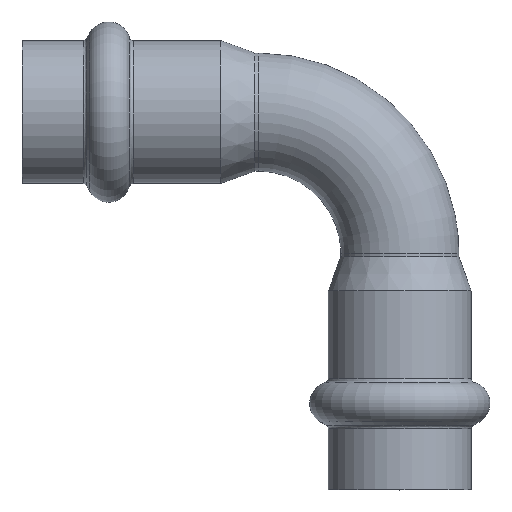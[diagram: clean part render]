
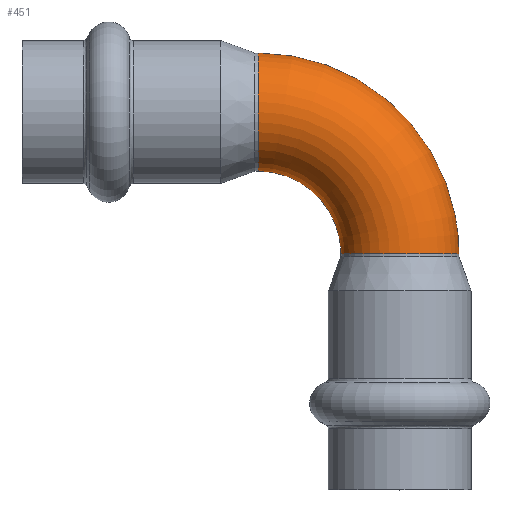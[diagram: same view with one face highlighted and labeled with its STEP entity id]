
A CAD part, top view. The second image highlights one B-rep face of the part: STEP entity #451.
In plain terms, the highlighted toroidal (fillet/blend) face has major radius 18 mm and minor radius 7.5 mm.
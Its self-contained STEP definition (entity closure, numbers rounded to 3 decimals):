
#424=CARTESIAN_POINT('',(-18.,-18.,0.));
#425=DIRECTION('',(0.,0.,-1.0));
#426=DIRECTION('',(-1.0,0.0,0.0));
#427=AXIS2_PLACEMENT_3D('',#424,#425,#426);
#428=TOROIDAL_SURFACE('',#427,18.0,7.5);
#429=CARTESIAN_POINT('',(0.,-18.,7.5));
#430=VERTEX_POINT('',#429);
#431=CARTESIAN_POINT('',(0.,-18.,0.0));
#432=DIRECTION('',(0.0,-1.0,0.0));
#433=DIRECTION('',(1.0,0.0,0.0));
#434=AXIS2_PLACEMENT_3D('',#431,#432,#433);
#435=CIRCLE('',#434,7.5);
#436=EDGE_CURVE('',#430,#430,#435,.T.);
#437=ORIENTED_EDGE('',*,*,#436,.F.);
#438=EDGE_LOOP('',(#437));
#439=FACE_OUTER_BOUND('',#438,.T.);
#440=CARTESIAN_POINT('',(-18.0,7.5,0.0));
#441=VERTEX_POINT('',#440);
#442=CARTESIAN_POINT('',(-18.0,0.,0.0));
#443=DIRECTION('',(1.0,0.0,0.0));
#444=DIRECTION('',(0.0,1.0,0.0));
#445=AXIS2_PLACEMENT_3D('',#442,#443,#444);
#446=CIRCLE('',#445,7.5);
#447=EDGE_CURVE('',#441,#441,#446,.T.);
#448=ORIENTED_EDGE('',*,*,#447,.T.);
#449=EDGE_LOOP('',(#448));
#450=FACE_BOUND('',#449,.T.);
#451=ADVANCED_FACE('',(#439,#450),#428,.T.);
